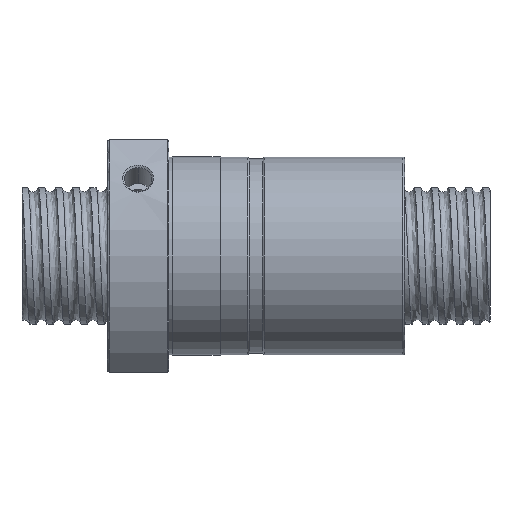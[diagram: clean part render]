
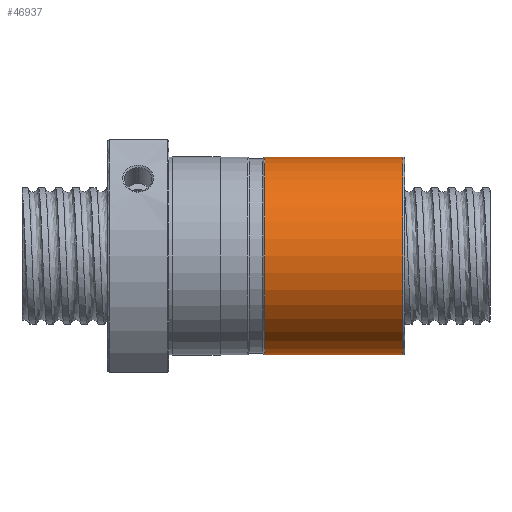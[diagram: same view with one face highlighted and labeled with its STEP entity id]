
A CAD part, front view. The second image highlights one B-rep face of the part: STEP entity #46937.
In plain terms, the highlighted cylindrical face has radius 28.9 mm (diameter 57.8 mm), a partial arc.
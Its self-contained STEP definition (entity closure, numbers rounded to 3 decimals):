
#3780 = LINE ( 'NONE', #3783, #3782 ) ;
#3782 = VECTOR ( 'NONE', #3791, 1000. ) ;
#3783 = CARTESIAN_POINT ( 'NONE',  ( 0., 0., -28.9 ) ) ;
#3788 = DIRECTION ( 'NONE',  ( -1., 0., 0. ) ) ;
#3789 = VECTOR ( 'NONE', #3788, 1000. ) ;
#3791 = DIRECTION ( 'NONE',  ( -1., 0., 0. ) ) ;
#3792 = CARTESIAN_POINT ( 'NONE',  ( 0., 0., 28.9 ) ) ;
#3793 = LINE ( 'NONE', #3792, #3789 ) ;
#26462 = CARTESIAN_POINT ( 'NONE',  ( -41.01, 0., 28.9 ) ) ;
#26464 = CARTESIAN_POINT ( 'NONE',  ( -41.01, 0., -28.9 ) ) ;
#26473 = CARTESIAN_POINT ( 'NONE',  ( -0.5, 0., -28.9 ) ) ;
#26616 = CARTESIAN_POINT ( 'NONE',  ( -0.5, 0., 28.9 ) ) ;
#33291 = DIRECTION ( 'NONE',  ( 0., 0., 1. ) ) ;
#33292 = DIRECTION ( 'NONE',  ( 1., 0., 0. ) ) ;
#33293 = CARTESIAN_POINT ( 'NONE',  ( -41.01, 0., 0. ) ) ;
#33294 = AXIS2_PLACEMENT_3D ( 'NONE', #33293, #33292, #33291 ) ;
#33295 = CIRCLE ( 'NONE', #33294, 28.9 ) ;
#33296 = DIRECTION ( 'NONE',  ( 0., 0., -1. ) ) ;
#33297 = DIRECTION ( 'NONE',  ( -1., 0., 0. ) ) ;
#33299 = AXIS2_PLACEMENT_3D ( 'NONE', #33310, #33297, #33296 ) ;
#33300 = CIRCLE ( 'NONE', #33299, 28.9 ) ;
#33303 = DIRECTION ( 'NONE',  ( 0., 0., 1. ) ) ;
#33305 = DIRECTION ( 'NONE',  ( -1., 0., 0. ) ) ;
#33306 = CARTESIAN_POINT ( 'NONE',  ( 0., 0., 0. ) ) ;
#33308 = AXIS2_PLACEMENT_3D ( 'NONE', #33306, #33305, #33303 ) ;
#33310 = CARTESIAN_POINT ( 'NONE',  ( -0.5, 0., 0. ) ) ;
#33313 = CYLINDRICAL_SURFACE ( 'NONE', #33308, 28.9 ) ;
#33314 = FACE_OUTER_BOUND ( 'NONE', #46938, .T. ) ;
#45187 = EDGE_CURVE ( 'NONE', #46287, #46298, #3780, .T. ) ;
#45191 = EDGE_CURVE ( 'NONE', #46337, #46299, #3793, .T. ) ;
#46287 = VERTEX_POINT ( 'NONE', #26473 ) ;
#46298 = VERTEX_POINT ( 'NONE', #26464 ) ;
#46299 = VERTEX_POINT ( 'NONE', #26462 ) ;
#46337 = VERTEX_POINT ( 'NONE', #26616 ) ;
#46937 = ADVANCED_FACE ( 'NONE', ( #33314 ), #33313, .T. ) ;
#46938 = EDGE_LOOP ( 'NONE', ( #46939, #46940, #46942, #46943 ) ) ;
#46939 = ORIENTED_EDGE ( 'NONE', *, *, #45187, .F. ) ;
#46940 = ORIENTED_EDGE ( 'NONE', *, *, #46941, .T. ) ;
#46941 = EDGE_CURVE ( 'NONE', #46287, #46337, #33300, .T. ) ;
#46942 = ORIENTED_EDGE ( 'NONE', *, *, #45191, .T. ) ;
#46943 = ORIENTED_EDGE ( 'NONE', *, *, #46944, .T. ) ;
#46944 = EDGE_CURVE ( 'NONE', #46299, #46298, #33295, .T. ) ;
